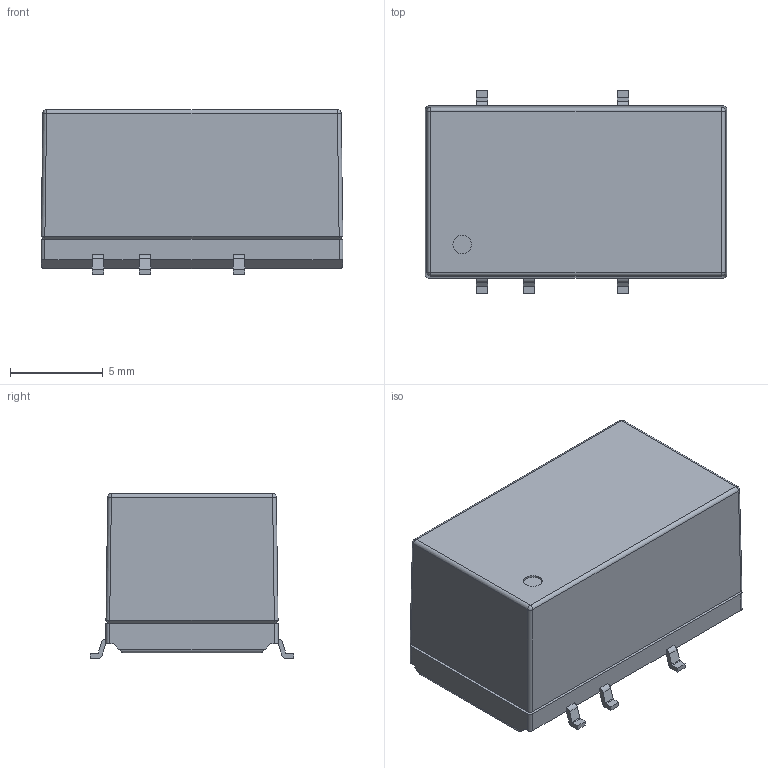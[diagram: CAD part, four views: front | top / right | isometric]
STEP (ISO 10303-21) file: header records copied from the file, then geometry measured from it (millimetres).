
FILE_DESCRIPTION(/* description */ (''),/* implementation_level */ '2;1');
FILE_NAME(/* name */ 'C:\Users\Calliope\Documents\Inventor\機台模治具\型錄用3D尺寸外觀\MSPU01H\MSPU01H-S.stp',/* time_stamp */ '2024-02-23T17:12:46+08:00',/* author */ ('Calliope'),/* organization */ (''),/* preprocessor_version */ 'ST-DEVELOPER v16.1',/* originating_system */ 'Autodesk Inventor 2016',/* authorisation */ '');
FILE_SCHEMA (('AUTOMOTIVE_DESIGN { 1 0 10303 214 3 1 1 }'));
Length unit declared in the file: millimetre
Products named in the file (1): MSPU01H-S
Bounding box: 16.3 x 11 x 8.9 mm (x, y, z)
Volume: 560.2 mm3; surface area: 1276.8 mm2
Topology: 1 solids, 1 shells, 144 faces, 359 edges, 220 vertices
Faces by surface type: plane 88, cylinder 40, sphere 8, bspline 8
Full cylindrical faces by diameter (mm): 1 x2, 1.5 x1
Entity records: 4604 total; most frequent: CARTESIAN_POINT 1067, ORIENTED_EDGE 696, DIRECTION 674, EDGE_CURVE 348, LINE 248, VECTOR 248, VERTEX_POINT 220, AXIS2_PLACEMENT_3D 213
